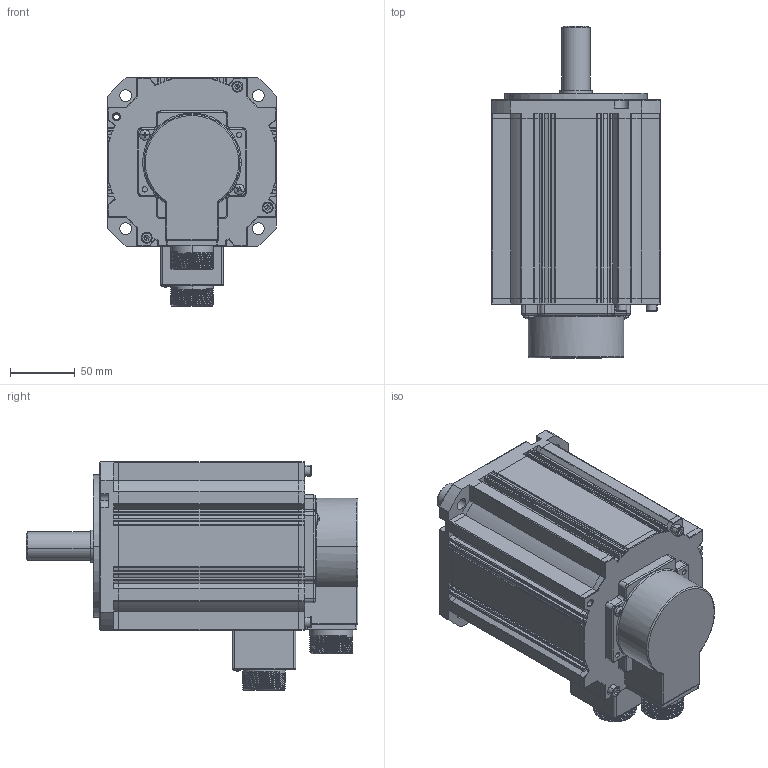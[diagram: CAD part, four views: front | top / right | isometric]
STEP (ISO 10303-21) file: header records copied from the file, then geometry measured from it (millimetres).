
FILE_DESCRIPTION (( 'STEP AP203' ), '1' );
FILE_NAME ('WF130ST-M14320-3D.STEP', '2021-07-26T09:24:36', ( '' ), ( '' ), 'SwSTEP 2.0', 'SolidWorks 2018', '' );
FILE_SCHEMA (( 'CONFIG_CONTROL_DESIGN' ));
Length unit declared in the file: millimetre
Products named in the file (16): WF130ST-M14320-3D; 盓傅啣; ヶ傷裔; deep groove ball bearings gb_Rolling bearings 6205 GB 276-94; cross recessed pan head screws gb_GB_CROSS_SCREWS_TYPE1 M3X12-12  H type-N; 脣釱1; 綴傷裔; jike; 瑤脣窒煦; cross recessed pan head screws gb_GB_CROSS_SCREWS_TYPE1 M4X12-12  H type-N; 粣; 瑤脣裔; 蛌赽軞傖; deep groove ball bearings gb_Rolling bearings 6204 GB 276-94; 晤鎢欶裔; hexagon socket head cap screws gb_GB_FASTENER_SCREWS_HSHCS M5X20-N
Assembly tree (22 placements, depth 3):
  WF130ST-M14320-3D
    jike
    瑤脣窒煦
      瑤脣裔
      脣釱1
      盓傅啣
    ヶ傷裔
    綴傷裔
    晤鎢欶裔
    脣釱1
    hexagon socket head cap screws gb_GB_FASTENER_SCREWS_HSHCS M5X20-N  x4
    cross recessed pan head screws gb_GB_CROSS_SCREWS_TYPE1 M4X12-12  H type-N  x2
    cross recessed pan head screws gb_GB_CROSS_SCREWS_TYPE1 M3X12-12  H type-N
    蛌赽軞傖
      粣
      deep groove ball bearings gb_Rolling bearings 6205 GB 276-94  x2
      deep groove ball bearings gb_Rolling bearings 6204 GB 276-94  x2
Bounding box: 130 x 256 x 176 mm (x, y, z)
Volume: 965741.5 mm3; surface area: 393092.4 mm2
Topology: 20 solids, 20 shells, 2358 faces, 6862 edges, 4370 vertices
Faces by surface type: cylinder 955, plane 611, torus 486, sphere 148, bspline 116, cone 42
Entity records: 73785 total; most frequent: CARTESIAN_POINT 23769, ORIENTED_EDGE 10402, DIRECTION 10068, EDGE_CURVE 5201, AXIS2_PLACEMENT_3D 4034, VERTEX_POINT 3275, CIRCLE 2168, EDGE_LOOP 2100
